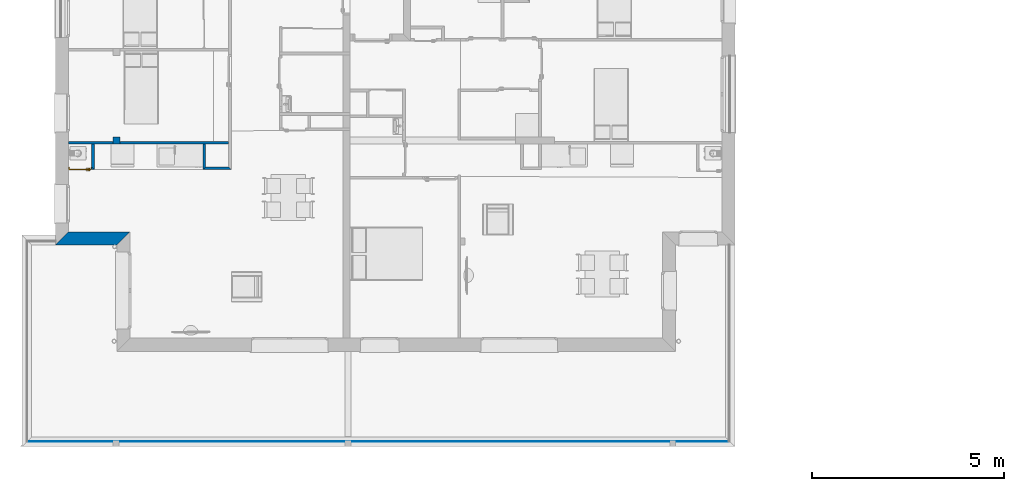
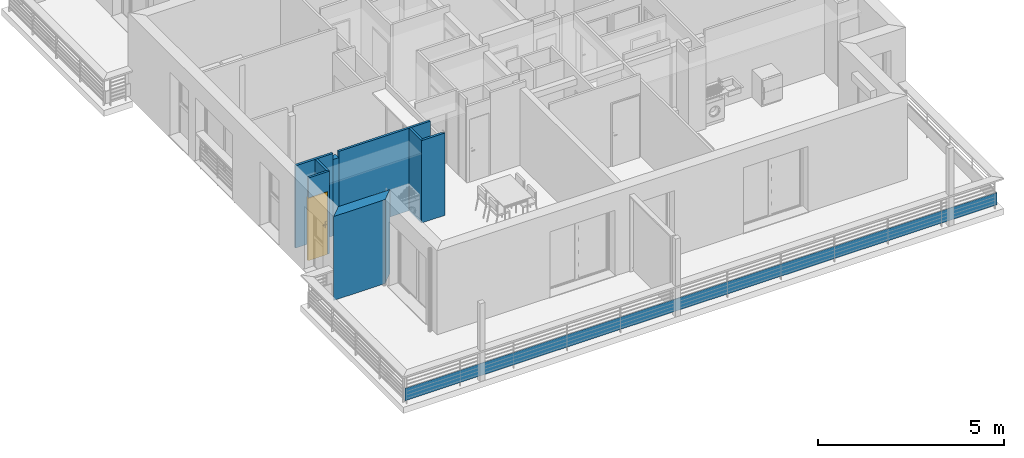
# One storey, part 4 of 164: 9 walls, 1 door, 1 opening.
"""IFC2X3 building model written with IfcOpenShell, lengths in millimetres."""

from ifc_helpers import new_model, entity, si_unit, converted_unit, derived_unit, money_unit, direction, frame, origin_with_axes, origin_2d_with_axis, place, context, subcontext, project, spatial, polyline, rectangle, outline, extrude, faceted_brep, source, transform, mapped, material, layer, layer_set, layer_usage, type_object, element, fill, save


model = new_model("IFC2X3")

# Units and contexts
model_context = context("Model", 3, precision=0.01, world=origin_with_axes(), true_north=direction((0.0, 1.0)))
body_context = subcontext(model_context, "Body", "Model", "MODEL_VIEW")
ifc_project = project(units=[si_unit("LENGTHUNIT", "METRE", prefix="MILLI"), si_unit("AREAUNIT", "SQUARE_METRE"), si_unit("VOLUMEUNIT", "CUBIC_METRE"), converted_unit("PLANEANGLEUNIT", "DEGREE", entity("IfcPlaneAngleMeasure", 0.0174532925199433), si_unit("PLANEANGLEUNIT", "RADIAN"), dimensions=[0, 0, 0, 0, 0, 0, 0]), money_unit("USD"), converted_unit("TIMEUNIT", "Year", entity("IfcTimeMeasure", 31557600.0), si_unit("TIMEUNIT", "SECOND"), dimensions=[0, 0, 1, 0, 0, 0, 0]), si_unit("MASSUNIT", "GRAM", prefix="KILO"), si_unit("THERMODYNAMICTEMPERATUREUNIT", "DEGREE_CELSIUS"), si_unit("LUMINOUSINTENSITYUNIT", "LUMEN"), si_unit("ENERGYUNIT", "JOULE", prefix="MEGA"), derived_unit("THERMALCONDUCTANCEUNIT", [(si_unit("POWERUNIT", "WATT"), 1), (si_unit("LENGTHUNIT", "METRE"), -1), (si_unit("THERMODYNAMICTEMPERATUREUNIT", "KELVIN"), -1)]), derived_unit("SPECIFICHEATCAPACITYUNIT", [(si_unit("ENERGYUNIT", "JOULE"), 1), (si_unit("MASSUNIT", "GRAM", prefix="KILO"), -1), (si_unit("THERMODYNAMICTEMPERATUREUNIT", "KELVIN"), -1)]), derived_unit("MASSDENSITYUNIT", [(si_unit("MASSUNIT", "GRAM", prefix="KILO"), 1), (si_unit("VOLUMEUNIT", "CUBIC_METRE"), -1)])], contexts=[model_context])

# Site, building, storey
site_placement = place(None, origin_with_axes())
site = spatial("IfcSite", under=ifc_project, at=site_placement, Name="Site", CompositionType="ELEMENT")
building_placement = place(site_placement, origin_with_axes())
building = spatial("IfcBuilding", under=site, at=building_placement, Name="Bâtiment", CompositionType="ELEMENT")
storey_placement = place(building_placement, frame((0.0, 0.0, 5750.0), z_axis=(0.0, 0.0, 1.0), x_axis=(1.0, 0.0, 0.0)))
storey = spatial("IfcBuildingStorey", under=building, at=storey_placement, Name="Etage1", CompositionType="ELEMENT", Elevation=5750.0)

# Walls
ifc_material_1 = material(Name="Hachure solide 268963992")
ifc_layer_1 = layer(ifc_material_1, 70.0, ventilated="UNKNOWN")
ifc_layer_set_1 = layer_set([ifc_layer_1], Name="Cloison 70 0826278243")
ifc_layer_usage_1 = layer_usage(ifc_layer_set_1, "AXIS2", "NEGATIVE", 70.0)
wall_type_1 = type_object("IfcWallType", Name="Cloison 70 0826278243 70", PredefinedType="NOTDEFINED")
wall_1_placement = place(storey_placement, frame((2217644.64344762, -653082.9598893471, 0.0), z_axis=(0.0, 0.0, 1.0), x_axis=(0.0, 1.0, 0.0)))
element("IfcWallStandardCase", 1, at=wall_1_placement, inside=storey, type_object=wall_type_1, material=ifc_layer_usage_1, Name="Mur-149", context=body_context, shape_type="SweptSolid", body=[
    extrude(outline(polyline([(0.0, 0.0), (670.2778272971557, 0.0), (670.2778272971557, 70.00000000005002), (69.99999999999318, 70.00000000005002), (0.0, 0.0)])), origin_with_axes(), (0.0, 0.0, 1.0), 2700.0),
])
ifc_layer_usage_2 = layer_usage(ifc_layer_set_1, "AXIS2", "POSITIVE", -70.0)
wall_2_placement = place(storey_placement, frame((2221152.351167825, -652412.6820620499, 0.0), z_axis=(0.0, 0.0, 1.0), x_axis=(-1.0, 0.0, 0.0)))
element("IfcWallStandardCase", 2, at=wall_2_placement, inside=storey, type_object=wall_type_1, material=ifc_layer_usage_2, Name="Mur-149", context=body_context, shape_type="SweptSolid", body=[
    extrude(outline(polyline([(3.249147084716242e-05, -69.99999999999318), (2838.117831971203, -69.99999999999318), (2838.117831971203, 0.0), (3.278898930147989e-05, 0.0), (3.249147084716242e-05, -69.99999999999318)])), origin_with_axes(), (0.0, 0.0, 1.0), 2700.0),
])
ifc_layer_usage_3 = layer_usage(ifc_layer_set_1, "AXIS2", "POSITIVE", -70.0)
wall_3_placement = place(storey_placement, frame((2220481.941023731, -653082.9598893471, 0.0), z_axis=(0.0, 0.0, 1.0), x_axis=(-0.0005802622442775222, 0.9999998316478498, 0.0)))
element("IfcWallStandardCase", 3, at=wall_3_placement, inside=storey, type_object=wall_type_1, material=ifc_layer_usage_3, Name="Mur-149", context=body_context, shape_type="SweptSolid", body=[
    extrude(outline(polyline([(69.95939342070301, -70.00000000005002), (670.237321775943, -70.00000000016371), (670.2779401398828, -1.13686837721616e-10), (0.0, 0.0), (69.95939342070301, -70.00000000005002)])), origin_with_axes(), (0.0, 0.0, 1.0), 2700.0),
])
ifc_layer_usage_4 = layer_usage(ifc_layer_set_1, "AXIS2", "POSITIVE", -70.0)
wall_4_placement = place(storey_placement, frame((2221152.351132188, -653082.9598893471, 0.0), z_axis=(0.0, 0.0, 1.0), x_axis=(-1.0, 0.0, 0.0)))
element("IfcWallStandardCase", 4, at=wall_4_placement, inside=storey, type_object=wall_type_1, material=ifc_layer_usage_4, Name="Mur-149", context=body_context, shape_type="SweptSolid", body=[
    extrude(outline(polyline([(-2.975184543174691e-07, -69.99999999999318), (600.4507150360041, -69.99999999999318), (670.4101084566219, 0.0), (-70.00000000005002, 0.0), (-2.975184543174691e-07, -69.99999999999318)])), origin_with_axes(), (0.0, 0.0, 1.0), 2700.0),
])

# Wall, opening, door
ifc_layer_usage_5 = layer_usage(ifc_layer_set_1, "AXIS2", "NEGATIVE", 70.0)
wall_5_placement = place(storey_placement, frame((2216994.233340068, -653082.9598893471, 0.0), z_axis=(0.0, 0.0, 1.0), x_axis=(1.0, 0.0, 0.0)))
wall_5 = element("IfcWallStandardCase", 5, at=wall_5_placement, inside=storey, type_object=wall_type_1, material=ifc_layer_usage_5, Name="Mur-149", context=body_context, shape_type="SweptSolid", body=[
    extrude(outline(polyline([(0.0, 0.0), (650.4101075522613, 0.0), (580.4101075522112, 69.99999999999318), (0.0, 69.99999999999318), (0.0, 0.0)])), origin_with_axes(), (0.0, 0.0, 1.0), 2700.0),
])
opening_placement = place(wall_5_placement, frame((279.9999999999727, 0.0, 0.0), z_axis=(0.0, 0.0, 1.0), x_axis=(1.0, 0.0, 0.0)))
opening = element("IfcOpeningElement", 6, at=opening_placement, cuts=wall_5, Name="Por-274", context=body_context, shape_type="SweptSolid", body=[
    extrude(rectangle(XDim=599.9999999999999, YDim=2050.0, at=origin_2d_with_axis()), frame((0.0, 69.99999999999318, 1025.0), z_axis=(0.0, -1.0, 0.0), x_axis=(-1.0, 0.0, 0.0)), (0.0, 0.0, 1.0), 140.0),
])
door_style = type_object("IfcDoorStyle", Name="Porte_1v", ConstructionType="NOTDEFINED", OperationType="NOTDEFINED", ParameterTakesPrecedence=False, Sizeable=False)
shared_shape = source(origin_with_axes(), body_context, "Body", "Brep", [
    faceted_brep([(300.0, 0.0, 0.0), (290.0, 0.0, 0.0), (290.0, 0.0, 2040.0), (-290.0, 0.0, 2040.0), (-290.0, 0.0, 0.0), (-300.0, 0.0, 0.0), (-300.0, 0.0, 2050.0), (300.0, 0.0, 2050.0), (300.0, -70.0, 0.0), (279.9999999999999, -70.0, 0.0), (279.9999999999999, -15.0, 0.0), (290.0, -15.0, 0.0), (290.0, -15.0, 2040.0), (-290.0, -15.0, 2040.0), (-290.0, -15.0, 0.0), (-279.9999999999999, -15.0, 0.0), (-279.9999999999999, -70.0, 0.0), (-300.0, -70.0, 0.0), (-300.0, -70.0, 2050.0), (300.0, -70.0, 2050.0), (-279.9999999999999, -70.0, 2030.0), (279.9999999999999, -70.0, 2030.0), (279.9999999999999, -15.0, 2030.0), (-279.9999999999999, -15.0, 2030.0)], [[[0, 1, 2, 3, 4, 5, 6, 7]], [[0, 8, 9, 10, 11, 1]], [[1, 11, 12, 2]], [[2, 12, 13, 3]], [[3, 13, 14, 4]], [[5, 4, 14, 15, 16, 17]], [[18, 6, 5, 17]], [[19, 7, 6, 18]], [[8, 0, 7, 19]], [[9, 8, 19, 18, 17, 16, 20, 21]], [[10, 9, 21, 22]], [[11, 10, 22, 23, 15, 14, 13, 12]], [[23, 20, 16, 15]], [[22, 21, 20, 23]]]),
    faceted_brep([(-224.9999999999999, -15.0, 900.0), (-264.9999999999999, -15.0, 900.0), (-264.9999999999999, -15.0, 1100.0), (-224.9999999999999, -15.0, 1100.0), (-224.9999999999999, -25.0, 900.0), (-264.9999999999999, -25.0, 900.0), (-264.9999999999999, -25.0, 1100.0), (-224.9999999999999, -25.0, 1100.0)], [[[0, 1, 2, 3]], [[1, 0, 4, 5]], [[2, 1, 5, 6]], [[3, 2, 6, 7]], [[0, 3, 7, 4]], [[5, 4, 7, 6]]]),
    faceted_brep([(-154.9999999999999, -25.0, 1000.0), (-254.9999999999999, -25.0, 1000.0), (-254.9999999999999, -25.0, 1020.0), (-154.9999999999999, -25.0, 1020.0), (-154.9999999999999, -45.0, 1000.0), (-254.9999999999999, -45.0, 1000.0), (-254.9999999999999, -45.0, 1020.0), (-154.9999999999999, -45.0, 1020.0)], [[[0, 1, 2, 3]], [[1, 0, 4, 5]], [[2, 1, 5, 6]], [[3, 2, 6, 7]], [[0, 3, 7, 4]], [[5, 4, 7, 6]]]),
    faceted_brep([(-224.9999999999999, 15.0, 900.0), (-264.9999999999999, 15.0, 900.0), (-264.9999999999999, 15.0, 1100.0), (-224.9999999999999, 15.0, 1100.0), (-224.9999999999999, 5.000000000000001, 900.0), (-264.9999999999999, 5.000000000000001, 900.0), (-264.9999999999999, 5.000000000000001, 1100.0), (-224.9999999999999, 5.000000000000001, 1100.0)], [[[0, 1, 2, 3]], [[1, 0, 4, 5]], [[2, 1, 5, 6]], [[3, 2, 6, 7]], [[0, 3, 7, 4]], [[5, 4, 7, 6]]]),
    faceted_brep([(-154.9999999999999, 35.0, 1000.0), (-254.9999999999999, 35.0, 1000.0), (-254.9999999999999, 35.0, 1020.0), (-154.9999999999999, 35.0, 1020.0), (-154.9999999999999, 15.0, 1000.0), (-254.9999999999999, 15.0, 1000.0), (-254.9999999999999, 15.0, 1020.0), (-154.9999999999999, 15.0, 1020.0)], [[[0, 1, 2, 3]], [[1, 0, 4, 5]], [[2, 1, 5, 6]], [[3, 2, 6, 7]], [[0, 3, 7, 4]], [[5, 4, 7, 6]]]),
    faceted_brep([(-290.0, 5.000000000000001, 0.0), (290.0, 5.000000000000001, 0.0), (290.0, -15.0, 0.0), (-290.0, -15.0, 0.0), (-290.0, 5.000000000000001, 2040.0), (290.0, 5.000000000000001, 2040.0), (290.0, -15.0, 2040.0), (-290.0, -15.0, 2040.0)], [[[0, 1, 2, 3]], [[0, 4, 5, 1]], [[1, 5, 6, 2]], [[3, 2, 6, 7]], [[4, 0, 3, 7]], [[5, 4, 7, 6]]]),
])
door_placement = place(opening_placement, frame((289.9999999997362, 0.0, 0.0), z_axis=(0.0, 0.0, 1.0), x_axis=(-1.0, 0.0, 0.0)))
door = element("IfcDoor", 7, at=door_placement, inside=storey, type_object=door_style, Name="Por-274", OverallHeight=2040.0, OverallWidth=580.0, context=body_context, shape_type="MappedRepresentation", body=[
    mapped(shared_shape, transform((289.9999999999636, 0.0, 0.0))),
])
fill(opening, door)

# Walls
ifc_layer_usage_6 = layer_usage(ifc_layer_set_1, "AXIS2", "POSITIVE", -70.0)
wall_6_placement = place(storey_placement, frame((2218138.165121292, -652412.6820620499, 0.0), z_axis=(0.0, 0.0, 1.0), x_axis=(-1.0, 0.0, 0.0)))
element("IfcWallStandardCase", 8, at=wall_6_placement, inside=storey, type_object=wall_type_1, material=ifc_layer_usage_6, Name="Mur-149", context=body_context, shape_type="SweptSolid", body=[
    extrude(outline(polyline([(0.0, -69.99999999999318), (1163.931776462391, -69.99999999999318), (1163.931776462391, 0.0), (0.0, 0.0), (0.0, -69.99999999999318)])), origin_with_axes(), (0.0, 0.0, 1.0), 2700.0),
])
ifc_material_2 = material(Name="MANQUANT")
ifc_layer_2 = layer(ifc_material_2, 20.0, ventilated="UNKNOWN")
ifc_layer_set_2 = layer_set([ifc_layer_2], Name="MANQUANT 20")
ifc_layer_usage_7 = layer_usage(ifc_layer_set_2, "AXIS2", "NEGATIVE", 20.0)
wall_type_2 = type_object("IfcWallType", Name="MANQUANT 20", PredefinedType="NOTDEFINED")
wall_7_placement = place(storey_placement, frame((2215882.61846778, -660181.523627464, 99.99999999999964), z_axis=(0.0, 0.0, 1.0), x_axis=(1.0, 0.0, 0.0)))
element("IfcWallStandardCase", 9, at=wall_7_placement, inside=storey, type_object=wall_type_2, material=ifc_layer_usage_7, Name="Mur-151", context=body_context, shape_type="SweptSolid", body=[
    extrude(outline(polyline([(0.0, 0.0), (18332.98699065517, 0.0), (18312.98699065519, 19.99999999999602), (20.00002648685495, 19.99999999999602), (0.0, 0.0)])), origin_with_axes(), (0.0, 0.0, 1.0), 400.0),
])
ifc_material_3 = material(Name="Parpaing 312445824")
ifc_layer_3 = layer(ifc_material_3, 180.0, ventilated="UNKNOWN")
ifc_material_4 = material(Name="Isolant styromousse 301821074")
ifc_layer_4 = layer(ifc_material_4, 160.0, ventilated="UNKNOWN")
ifc_layer_set_3 = layer_set([ifc_layer_3, ifc_layer_4], Name="isol int 18+16 0018356637")
ifc_layer_usage_8 = layer_usage(ifc_layer_set_3, "AXIS2", "POSITIVE", 0.0)
wall_type_3 = type_object("IfcWallType", Name="isol int 18+16 0018356637 340", PredefinedType="NOTDEFINED")
wall_8_placement = place(storey_placement, frame((2216634.233338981, -655041.4677782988, 0.0), z_axis=(0.0, 0.0, 1.0), x_axis=(1.0, 0.0, 0.0)))
element("IfcWallStandardCase", 10, at=wall_8_placement, inside=storey, type_object=wall_type_3, material=ifc_layer_usage_8, Name="Mur-143", context=body_context, shape_type="SweptSolid", body=[
    extrude(outline(polyline([(5.84816461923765e-06, 0.0), (1600.000000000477, 0.0), (1940.000000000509, 340.0000000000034), (340.0000058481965, 340.0000000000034), (5.84816461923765e-06, 0.0)])), origin_with_axes(), (0.0, 0.0, 1.0), 2750.0),
])
ifc_layer_5 = layer(ifc_material_3, 180.0, ventilated="UNKNOWN")
ifc_layer_set_4 = layer_set([ifc_layer_5], Name="Beton  18 0836643197")
ifc_layer_usage_9 = layer_usage(ifc_layer_set_4, "AXIS2", "NEGATIVE", 0.0)
wall_type_4 = type_object("IfcWallType", Name="Beton  18 0836643197 180", PredefinedType="NOTDEFINED")
wall_9_placement = place(storey_placement, frame((2218314.233335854, -652412.6820620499, 0.0), z_axis=(0.0, 0.0, 1.0), x_axis=(-1.0, 0.0, 0.0)))
element("IfcWallStandardCase", 11, at=wall_9_placement, inside=storey, type_object=wall_type_4, material=ifc_layer_usage_9, Name="Mur-143", context=body_context, shape_type="SweptSolid", body=[
    extrude(outline(polyline([(0.0, -180.0000000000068), (176.0682145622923, -180.0000000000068), (176.0682145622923, 0.0), (0.0, 0.0), (0.0, -180.0000000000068)])), origin_with_axes(), (0.0, 0.0, 1.0), 2500.0),
])

save(model, "model.ifc")
